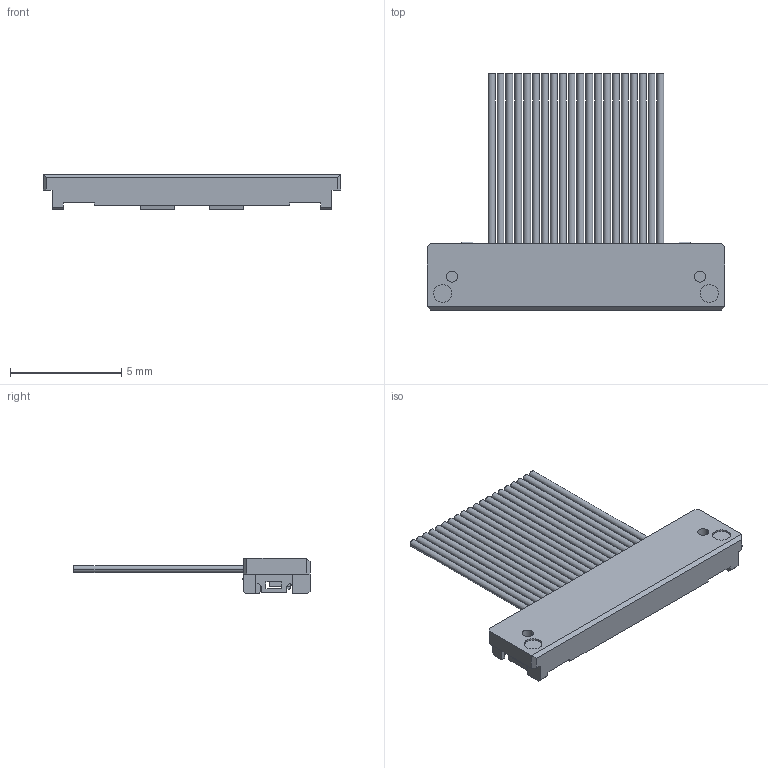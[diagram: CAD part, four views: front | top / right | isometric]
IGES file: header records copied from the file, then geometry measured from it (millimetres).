
Start section: Elysium IGES Interface
Global section: file name: C:\Users\1088\Desktop\P39909_USLS20-20\P39909_USLS20-20.igs; native system: CoCreate Modeling 17.0B  09-Oct-2010; preprocessor: CoCreate IGES_3D V2.2; author: Unknown; organization: Unknown; date: 20171122.120018; units: millimetre
Bounding box: 13.4 x 10.63 x 1.58 mm (x, y, z)
Volume: 51.4 mm3; surface area: 303.4 mm2
Topology: 1 solids, 1 shells, 584 faces, 1508 edges, 974 vertices
Faces by surface type: bspline 584
